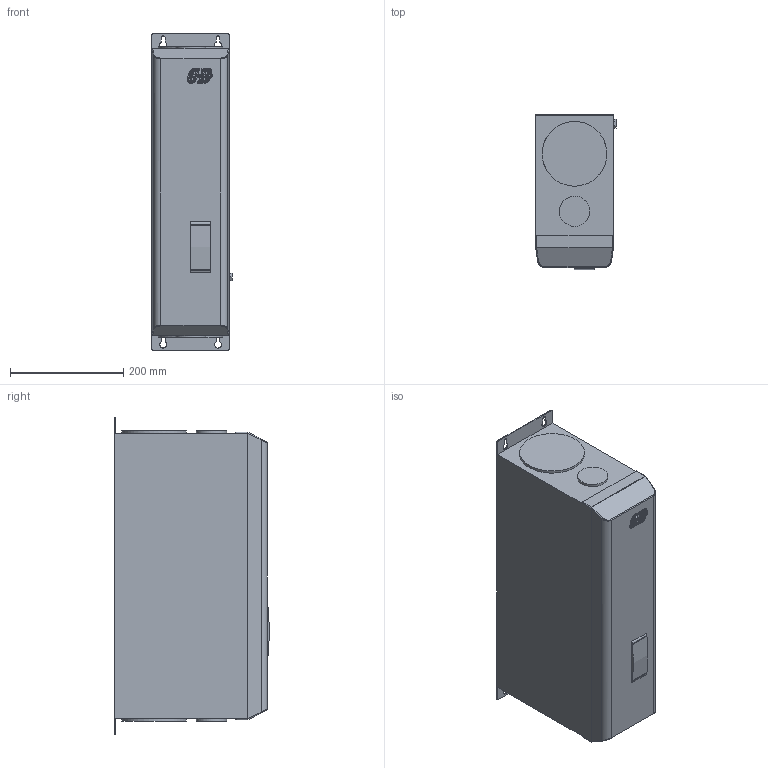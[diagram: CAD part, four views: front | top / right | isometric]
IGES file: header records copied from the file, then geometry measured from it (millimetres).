
Global section: file name: S15 800A 1PH; native system: AutoCAD 2015 - Italiano (Italian); preprocessor: Autodesk Translation Framework DWG producer (atf_dwg_producer); organization: unknown; date: 20180117.122809; units: millimetre
Bounding box: 142.08 x 274.08 x 560 mm (x, y, z)
Volume: 18618366.3 mm3; surface area: 493715.1 mm2
Topology: 1 solids, 1 shells, 875 faces, 2462 edges, 1640 vertices
Faces by surface type: bspline 875
